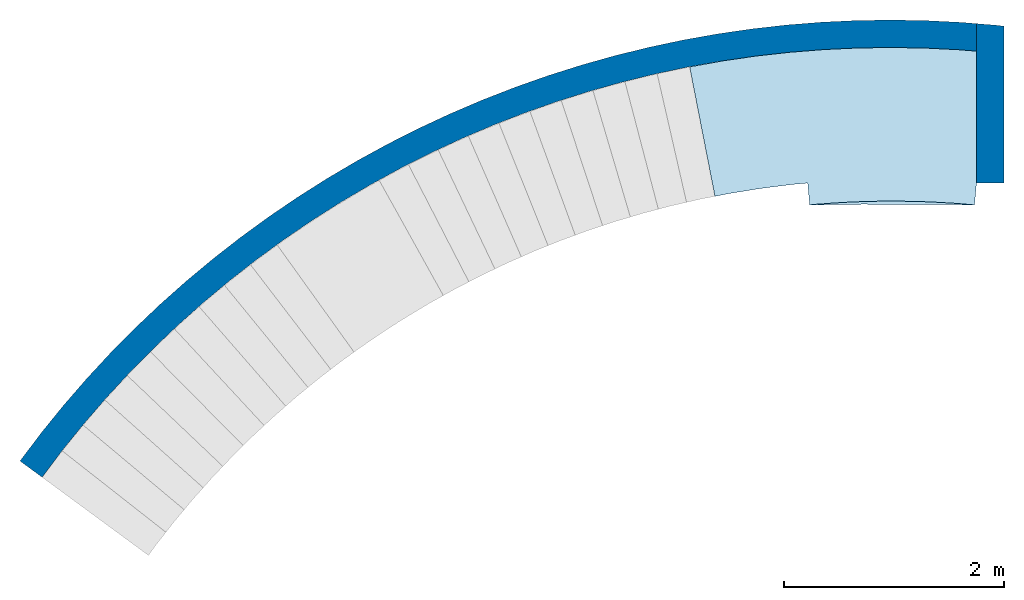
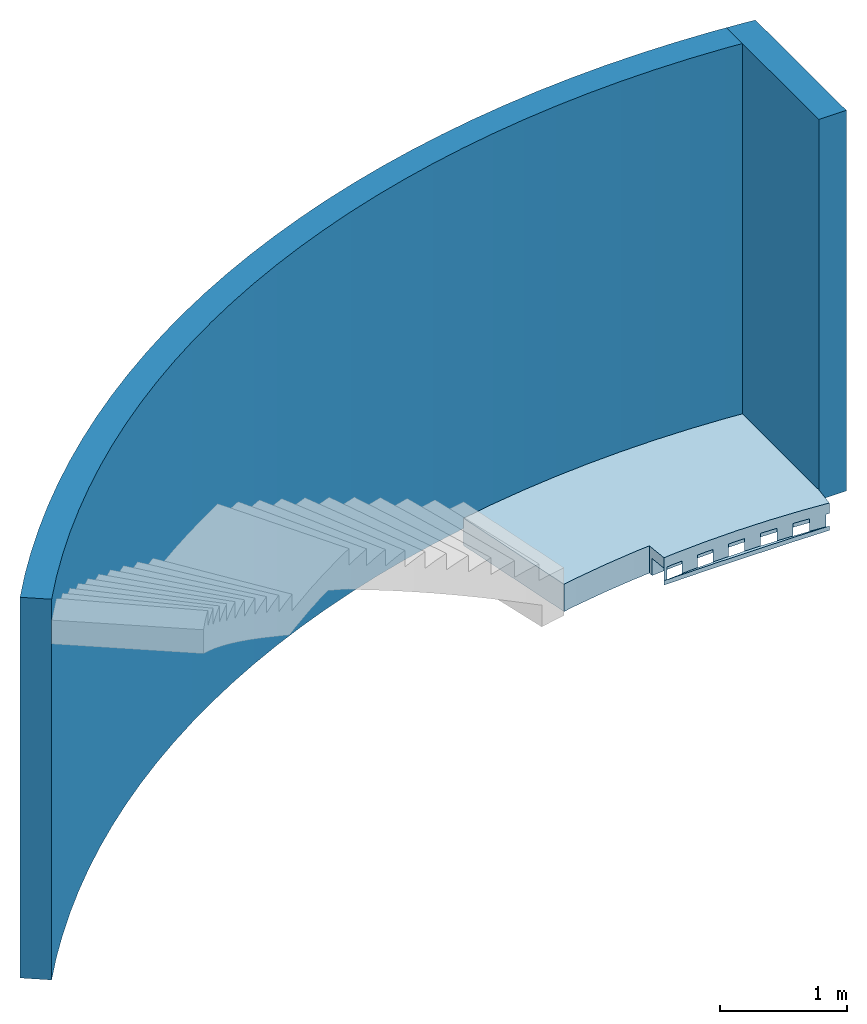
# One storey, incomplete: 2 walls, 1 slab.
"""IFC4 building model written with IfcOpenShell, lengths in millimetres."""

import ifcopenshell
import ifcopenshell.guid

model = None  # the IFC model being written
_history = None  # IfcOwnerHistory: only IFC2X3 demands one
_inside = {}  # id of a spatial element -> (the spatial element, [elements in it])
_under = {}  # id of a project, library or spatial element -> (it, [spatial elements below it])
_declared = {}  # id of a project -> (the project, [libraries it declares])
_typed = {}  # id of a type object -> (the type object, [elements of that type])
_made_of = {}  # id of a material, layer set ... -> (it, [elements and type objects made of it])


def new_model(schema):
    """Start an empty IFC model of exactly this schema.

    Asked for "IFC4X3", IfcOpenShell would pick the latest addendum, in which some entities
    have other attributes; the version numbers below select the first issue.
    IFC2X3 requires an IfcOwnerHistory on every rooted entity: one is made here for all.
    """
    global model, _history
    if schema == "IFC4X3":
        model = ifcopenshell.file(schema_version=(4, 3, 0, 0))
    else:
        model = ifcopenshell.file(schema=schema)
    _inside.clear()
    _under.clear()
    _declared.clear()
    _typed.clear()
    _made_of.clear()
    _history = None
    if model.schema == "IFC2X3":
        org = make("IfcOrganization", Name="unknown")
        user = make(
            "IfcPersonAndOrganization",
            ThePerson=make("IfcPerson", FamilyName="unknown"),
            TheOrganization=org,
        )
        app = make(
            "IfcApplication",
            ApplicationDeveloper=org,
            Version="unknown",
            ApplicationFullName="unknown",
            ApplicationIdentifier="unknown",
        )
        _history = make(
            "IfcOwnerHistory",
            OwningUser=user,
            OwningApplication=app,
            ChangeAction="ADDED",
            CreationDate=0,
        )
    return model


def make(cls, **values):
    """One entity of the class cls with the attributes given. An attribute that is None is left unset."""
    return model.create_entity(
        cls, **{name: value for name, value in values.items() if value is not None}
    )


def entity(cls, *values):
    """Any entity or typed value of the class cls, its attributes in the order of the schema. None: left unset."""
    e = model.create_entity(cls)
    for i, value in enumerate(values):
        if value is not None:
            e[i] = value
    return e


def rooted(cls, **values):
    """An entity with a GlobalId (a new one), such as an element, a storey or a relation."""
    return make(cls, GlobalId=ifcopenshell.guid.new(), OwnerHistory=_history, **values)


def si_unit(unit_type, name, prefix=None):
    """IfcSIUnit, for example si_unit("LENGTHUNIT", "METRE", prefix="MILLI")."""
    return make("IfcSIUnit", UnitType=unit_type, Prefix=prefix, Name=name)


def converted_unit(unit_type, name, factor, base, dimensions=None, offset=None):
    """IfcConversionBasedUnit, such as the inch: factor (a typed value) times the base unit."""
    return make(
        "IfcConversionBasedUnit"
        if offset is None
        else "IfcConversionBasedUnitWithOffset",
        ConversionOffset=offset,
        Dimensions=None
        if dimensions is None
        else entity("IfcDimensionalExponents", *dimensions),
        UnitType=unit_type,
        Name=name,
        ConversionFactor=make(
            "IfcMeasureWithUnit", ValueComponent=factor, UnitComponent=base
        ),
    )


def derived_unit(unit_type, elements):
    """IfcDerivedUnit: a product of units, each with its exponent."""
    return make(
        "IfcDerivedUnit",
        Elements=[
            make("IfcDerivedUnitElement", Unit=unit, Exponent=power)
            for unit, power in elements
        ],
        UnitType=unit_type,
    )


def assignment(units):
    """IfcUnitAssignment: the units of a project."""
    return None if units is None else make("IfcUnitAssignment", Units=units)


def point(xyz):
    """IfcCartesianPoint."""
    return None if xyz is None else make("IfcCartesianPoint", Coordinates=xyz)


def direction(xyz):
    """IfcDirection."""
    return None if xyz is None else make("IfcDirection", DirectionRatios=xyz)


def frame(location, z_axis=None, x_axis=None):
    """IfcAxis2Placement3D, a coordinate frame: its origin and axes. An axis left out is left unset."""
    return make(
        "IfcAxis2Placement3D",
        Location=point(location),
        Axis=direction(z_axis),
        RefDirection=direction(x_axis),
    )


def origin_with_axes():
    """The frame at (0, 0, 0) with the z axis (0, 0, 1) and the x axis (1, 0, 0) written out."""
    return frame((0.0, 0.0, 0.0), z_axis=(0.0, 0.0, 1.0), x_axis=(1.0, 0.0, 0.0))


def place(relative_to, where):
    """IfcLocalPlacement: puts the frame where relative to a parent placement (None: the world)."""
    return make(
        "IfcLocalPlacement", PlacementRelTo=relative_to, RelativePlacement=where
    )


def context(
    kind, dimensions, precision=None, world=None, true_north=None, identifier=None
):
    """IfcGeometricRepresentationContext, for example the 3D "Model" context."""
    return make(
        "IfcGeometricRepresentationContext",
        ContextIdentifier=identifier,
        ContextType=kind,
        CoordinateSpaceDimension=dimensions,
        Precision=precision,
        WorldCoordinateSystem=world,
        TrueNorth=true_north,
    )


def subcontext(parent, identifier, kind, view, scale=None):
    """IfcGeometricRepresentationSubContext, for example "Body" below "Model"."""
    return make(
        "IfcGeometricRepresentationSubContext",
        ContextIdentifier=identifier,
        ContextType=kind,
        ParentContext=parent,
        TargetScale=scale,
        TargetView=view,
    )


def project(units=None, contexts=None):
    """IfcProject with its units and contexts."""
    return rooted(
        "IfcProject",
        Name="project",
        RepresentationContexts=contexts,
        UnitsInContext=assignment(units),
    )


def spatial(cls, under=None, at=None, **own):
    """A site, building, storey or space (cls), placed at a placement, below another one or the project."""
    s = rooted(cls, ObjectPlacement=at, **own)
    if under is not None:
        _under.setdefault(under.id(), (under, []))[1].append(s)
    return s


def point_list(points):
    """IfcCartesianPointList2D or 3D."""
    cls = (
        "IfcCartesianPointList2D" if len(points[0]) == 2 else "IfcCartesianPointList3D"
    )
    return make(cls, CoordList=points)


def polygons(points, faces, closed=None, point_numbers=None):
    """IfcPolygonalFaceSet: a face is its outer loop, then its inner loops; points numbered from 1."""
    made = []
    for loops in faces:
        if len(loops) == 1:
            made.append(make("IfcIndexedPolygonalFace", CoordIndex=loops[0]))
        else:
            made.append(
                make(
                    "IfcIndexedPolygonalFaceWithVoids",
                    CoordIndex=loops[0],
                    InnerCoordIndices=loops[1:],
                )
            )
    return make(
        "IfcPolygonalFaceSet",
        Coordinates=point_list(points),
        Closed=closed,
        Faces=made,
        PnIndex=point_numbers,
    )


def shape(context_of_items, identifier, shape_type, items):
    """IfcShapeRepresentation: the items that make up one representation, for example the "Body"."""
    return make(
        "IfcShapeRepresentation",
        ContextOfItems=context_of_items,
        RepresentationIdentifier=identifier,
        RepresentationType=shape_type,
        Items=items,
    )


def material(Name=None, Category=None):
    """IfcMaterial."""
    return make("IfcMaterial", Name=Name, Category=Category)


def constituent(of_material, Name=None, Category=None, fraction=None):
    """IfcMaterialConstituent: one of the materials an element consists of."""
    return make(
        "IfcMaterialConstituent",
        Name=Name,
        Material=of_material,
        Fraction=fraction,
        Category=Category,
    )


def constituent_set(constituents=None, Name=None):
    """IfcMaterialConstituentSet."""
    return make(
        "IfcMaterialConstituentSet", Name=Name, MaterialConstituents=constituents
    )


def made_of(thing, what):
    """Note that an element or type object is made of a material, layer set ...; save() writes the relation."""
    if what is not None:
        _made_of.setdefault(what.id(), (what, []))[1].append(thing)
    return thing


def type_object(cls, material=None, **own):
    """A type object (cls), such as IfcWallType, which elements share."""
    return made_of(rooted(cls, **own), material)


def element(
    cls,
    number,
    at=None,
    inside=None,
    cuts=None,
    type_object=None,
    material=None,
    context=None,
    identifier="Body",
    shape_type=None,
    held_by="IfcProductDefinitionShape",
    body=None,
    shapes=None,
    **own,
):
    """One element of the class cls, such as IfcWall. Its Tag is "e" and its number.

    at: its placement. inside: the storey or other place that contains it. cuts: it is an
    opening in that element (IfcRelVoidsElement). A single representation is given by context,
    identifier, shape_type and body (its items); several are given by shapes. held_by: the class
    of the entity that holds the representations. save() writes the other relations.
    """
    e = rooted(cls, Tag="e%d" % number, ObjectPlacement=at, **own)
    if body is not None:
        shapes = [shape(context, identifier, shape_type, body)]
    if shapes is not None:
        e.Representation = make(held_by, Representations=shapes)
    if inside is not None:
        _inside.setdefault(inside.id(), (inside, []))[1].append(e)
    if cuts is not None:
        rooted(
            "IfcRelVoidsElement", RelatingBuildingElement=cuts, RelatedOpeningElement=e
        )
    if type_object is not None:
        _typed.setdefault(type_object.id(), (type_object, []))[1].append(e)
    return made_of(e, material)


def aggregate(whole, parts):
    """IfcRelAggregates: a whole, such as a stair, and the parts it consists of."""
    return rooted("IfcRelAggregates", RelatingObject=whole, RelatedObjects=parts)


def save(model, path):
    """Write the relations noted so far, then the file.

    IfcRelAggregates (storeys below a building ...), IfcRelContainedInSpatialStructure (elements
    in a storey), IfcRelDefinesByType, IfcRelAssociatesMaterial and IfcRelDeclares: one each for
    every whole, place, type object, material and project.
    """
    for whole, parts in _under.values():
        aggregate(whole, parts)
    for where, things in _inside.values():
        rooted(
            "IfcRelContainedInSpatialStructure",
            RelatedElements=things,
            RelatingStructure=where,
        )
    for kind, things in _typed.values():
        rooted("IfcRelDefinesByType", RelatedObjects=things, RelatingType=kind)
    for what, things in _made_of.values():
        rooted("IfcRelAssociatesMaterial", RelatedObjects=things, RelatingMaterial=what)
    for by, libraries in _declared.values():
        rooted("IfcRelDeclares", RelatingContext=by, RelatedDefinitions=libraries)
    model.write(path)


model = new_model("IFC4")

# Units and contexts
model_context = context("Model", 3, precision=0.01, world=origin_with_axes(), true_north=direction((0.0, 1.0)))
body_context = subcontext(model_context, "Body", "Model", "MODEL_VIEW")
ifc_project = project(units=[si_unit("LENGTHUNIT", "METRE", prefix="MILLI"), si_unit("AREAUNIT", "SQUARE_METRE"), si_unit("VOLUMEUNIT", "CUBIC_METRE"), converted_unit("PLANEANGLEUNIT", "DEGREE", entity("IfcPlaneAngleMeasure", 0.0174532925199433), si_unit("PLANEANGLEUNIT", "RADIAN"), dimensions=[0, 0, 0, 0, 0, 0, 0]), converted_unit("TIMEUNIT", "Year", entity("IfcTimeMeasure", 31557600.0), si_unit("TIMEUNIT", "SECOND"), dimensions=[0, 0, 1, 0, 0, 0, 0]), si_unit("MASSUNIT", "GRAM", prefix="KILO"), si_unit("THERMODYNAMICTEMPERATUREUNIT", "DEGREE_CELSIUS"), si_unit("LUMINOUSINTENSITYUNIT", "LUMEN"), si_unit("ENERGYUNIT", "JOULE", prefix="MEGA"), derived_unit("THERMALCONDUCTANCEUNIT", [(si_unit("POWERUNIT", "WATT"), 1), (si_unit("LENGTHUNIT", "METRE"), -1), (si_unit("THERMODYNAMICTEMPERATUREUNIT", "KELVIN"), -1)]), derived_unit("SPECIFICHEATCAPACITYUNIT", [(si_unit("ENERGYUNIT", "JOULE"), 1), (si_unit("MASSUNIT", "GRAM", prefix="KILO"), -1), (si_unit("THERMODYNAMICTEMPERATUREUNIT", "KELVIN"), -1)]), derived_unit("MASSDENSITYUNIT", [(si_unit("MASSUNIT", "GRAM", prefix="KILO"), 1), (si_unit("VOLUMEUNIT", "CUBIC_METRE"), -1)])], contexts=[model_context])

# Site, building, storey
site_placement = place(None, origin_with_axes())
site = spatial("IfcSite", under=ifc_project, at=site_placement, Name="Exteriér", CompositionType="ELEMENT")
building_placement = place(site_placement, origin_with_axes())
building = spatial("IfcBuilding", under=site, at=building_placement, Name="Univerzitní lezecké centrum", CompositionType="ELEMENT")
storey_placement = place(building_placement, frame((0.0, 0.0, -3350.0), z_axis=(0.0, 0.0, 1.0), x_axis=(1.0, 0.0, 0.0)))
storey = spatial("IfcBuildingStorey", under=building, at=storey_placement, Name="1.PP", CompositionType="ELEMENT", Elevation=-3350.0)

# Slab
ifc_material_1 = material(Name="Betonová dlažba zámková")
ifc_constituent_1 = constituent(ifc_material_1, Name="Betonová dlažba zámková")
ifc_material_2 = material(Name="Štěrk - frakce 4/8")
ifc_constituent_2 = constituent(ifc_material_2, Name="Štěrk - frakce 4/8")
ifc_material_3 = material(Name="Štěrk - frakce 8/16")
ifc_constituent_3 = constituent(ifc_material_3, Name="Štěrk - frakce 8/16")
ifc_material_4 = material(Name="Geotextilie 300 g/m2")
ifc_constituent_4 = constituent(ifc_material_4, Name="Geotextilie 300 g/m2")
ifc_constituent_set = constituent_set(constituents=[ifc_constituent_1, ifc_constituent_2, ifc_constituent_3, ifc_constituent_4], Name="!Okapový chodník/Terasa/chodník")
slab_type = type_object("IfcSlabType", Name="!Okapový chodník/Terasa/chodník 312", PredefinedType="FLOOR")
slab_placement = place(storey_placement, frame((837.9499341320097, 16643.89306469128, 0.0), z_axis=(0.0, 0.0, 1.0), x_axis=(1.0, 0.0, 0.0)))
element("IfcSlab", 1, at=slab_placement, inside=storey, type_object=slab_type, material=ifc_constituent_set, PredefinedType="FLOOR", context=body_context, shape_type="Tessellation", body=[
    polygons([(2380.194397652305, 1320.897808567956, -59.99999999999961), (2380.194397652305, 1320.897808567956, 0.0), (2380.194397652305, 120.8978085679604, 0.0), (2380.194397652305, 120.8978085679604, -59.99999999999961), (2225.792900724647, 1333.648762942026, 0.0), (2225.792900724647, 1333.648762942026, -59.99999999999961), (370.3998768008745, 1276.186860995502, 0.0), (63.92436828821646, 1231.647672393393, 0.0), (-230.2716735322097, 1177.699009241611, 0.0), (0.0, 0.0, 0.0), (125.1991216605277, 24.76726126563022, 0.0), (411.4872163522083, 71.15553518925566, 0.0), (699.2058676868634, 107.6346085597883, 0.0), (843.6090317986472, 120.8978085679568, 0.0), (861.888085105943, -78.1154863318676, 0.0), (957.5525817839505, -68.74692884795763, 0.0), (1248.107027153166, -50.67388322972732, 0.0), (1539.119850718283, -42.92422372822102, 0.0), (1830.224378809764, -45.50771484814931, 0.0), (2121.053822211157, -58.42110141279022, 0.0), (2361.953230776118, -77.70299760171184, 0.0), (1916.326052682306, 1349.137672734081, 0.0), (1606.519938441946, 1354.59733784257, 0.0), (1296.69950183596, 1350.022031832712, 0.0), (987.1897017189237, 1335.416553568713, 0.0), (678.3151711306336, 1310.796222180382, 0.0), (2361.953230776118, -77.70299760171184, -59.99999999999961), (2121.053822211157, -58.42110141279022, -59.99999999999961), (1830.224378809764, -45.50771484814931, -59.99999999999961), (1539.119850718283, -42.92422372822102, -59.99999999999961), (1248.107027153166, -50.67388322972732, -59.99999999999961), (957.5525817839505, -68.74692884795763, -59.99999999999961), (861.888085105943, -78.1154863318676, -59.99999999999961), (843.6090317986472, 120.8978085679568, -59.99999999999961), (699.2058676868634, 107.6346085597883, -59.99999999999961), (411.4872163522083, 71.15553518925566, -59.99999999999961), (125.1991216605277, 24.76726126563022, -59.99999999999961), (0.0, 0.0, -59.99999999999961), (-230.2716735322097, 1177.699009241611, -59.99999999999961), (63.92436828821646, 1231.647672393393, -59.99999999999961), (370.3998768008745, 1276.186860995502, -59.99999999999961), (678.3151711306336, 1310.796222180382, -59.99999999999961), (987.1897017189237, 1335.416553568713, -59.99999999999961), (1296.69950183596, 1350.022031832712, -59.99999999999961), (1606.519938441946, 1354.59733784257, -59.99999999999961), (1916.326052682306, 1349.137672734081, -59.99999999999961)], [[[1, 2, 3, 4]], [[5, 2, 1, 6]], [[7, 8, 9, 10, 11, 12, 13, 14, 15, 16, 17, 18, 19, 20, 21, 3, 2, 5, 22, 23, 24, 25, 26]], [[3, 21, 27, 4]], [[6, 1, 4, 27, 28, 29, 30, 31, 32, 33, 34, 35, 36, 37, 38, 39, 40, 41, 42, 43, 44, 45, 46]], [[22, 5, 6, 46]], [[8, 7, 41, 40]], [[8, 40, 39, 9]], [[38, 10, 9, 39]], [[37, 11, 10, 38]], [[36, 12, 11, 37]], [[35, 13, 12, 36]], [[34, 14, 13, 35]], [[34, 33, 15, 14]], [[32, 16, 15, 33]], [[31, 17, 16, 32]], [[30, 18, 17, 31]], [[29, 19, 18, 30]], [[28, 20, 19, 29]], [[28, 27, 21, 20]], [[23, 22, 46, 45]], [[24, 23, 45, 44]], [[25, 24, 44, 43]], [[26, 25, 43, 42]], [[7, 26, 42, 41]]], closed=True),
    polygons([(2380.194397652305, 1320.897808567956, -100.0000000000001), (2380.194397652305, 1320.897808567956, -59.99999999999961), (2380.194397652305, 120.8978085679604, -59.99999999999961), (2380.194397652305, 120.8978085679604, -99.99999999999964), (2225.792900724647, 1333.648762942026, -59.99999999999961), (2225.792900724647, 1333.648762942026, -100.0000000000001), (370.3998768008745, 1276.186860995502, -59.99999999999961), (63.92436828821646, 1231.647672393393, -59.99999999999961), (-230.2716735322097, 1177.699009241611, -59.99999999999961), (0.0, 0.0, -59.99999999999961), (125.1991216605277, 24.76726126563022, -59.99999999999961), (411.4872163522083, 71.15553518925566, -59.99999999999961), (699.2058676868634, 107.6346085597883, -59.99999999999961), (843.6090317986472, 120.8978085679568, -59.99999999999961), (861.888085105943, -78.1154863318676, -59.99999999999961), (957.5525817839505, -68.74692884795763, -59.99999999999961), (1248.107027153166, -50.67388322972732, -59.99999999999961), (1539.119850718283, -42.92422372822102, -59.99999999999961), (1830.224378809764, -45.50771484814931, -59.99999999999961), (2121.053822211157, -58.42110141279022, -59.99999999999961), (2361.953230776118, -77.70299760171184, -59.99999999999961), (1916.326052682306, 1349.137672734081, -59.99999999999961), (1606.519938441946, 1354.59733784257, -59.99999999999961), (1296.69950183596, 1350.022031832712, -59.99999999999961), (987.1897017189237, 1335.416553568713, -59.99999999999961), (678.3151711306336, 1310.796222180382, -59.99999999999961), (2361.953230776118, -77.70299760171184, -99.99999999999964), (2121.053822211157, -58.42110141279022, -99.99999999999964), (1830.224378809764, -45.50771484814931, -99.99999999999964), (1539.119850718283, -42.92422372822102, -99.99999999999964), (1248.107027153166, -50.67388322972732, -99.99999999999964), (957.5525817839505, -68.74692884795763, -99.99999999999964), (861.888085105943, -78.1154863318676, -99.99999999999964), (843.6090317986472, 120.8978085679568, -99.99999999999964), (699.2058676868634, 107.6346085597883, -99.99999999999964), (411.4872163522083, 71.15553518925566, -99.99999999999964), (125.1991216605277, 24.76726126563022, -99.99999999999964), (0.0, 0.0, -99.99999999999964), (-230.2716735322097, 1177.699009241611, -99.99999999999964), (63.92436828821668, 1231.647672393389, -100.0000000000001), (370.3998768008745, 1276.186860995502, -100.0000000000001), (678.3151711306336, 1310.796222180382, -100.0000000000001), (987.1897017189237, 1335.416553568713, -100.0000000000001), (1296.69950183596, 1350.022031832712, -100.0000000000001), (1606.519938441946, 1354.59733784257, -100.0000000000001), (1916.326052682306, 1349.137672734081, -100.0000000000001)], [[[1, 2, 3, 4]], [[5, 2, 1, 6]], [[7, 8, 9, 10, 11, 12, 13, 14, 15, 16, 17, 18, 19, 20, 21, 3, 2, 5, 22, 23, 24, 25, 26]], [[3, 21, 27, 4]], [[6, 1, 4, 27, 28, 29, 30, 31, 32, 33, 34, 35, 36, 37, 38, 39, 40, 41, 42, 43, 44, 45, 46]], [[22, 5, 6, 46]], [[8, 7, 41, 40]], [[8, 40, 39, 9]], [[38, 10, 9, 39]], [[37, 11, 10, 38]], [[36, 12, 11, 37]], [[35, 13, 12, 36]], [[34, 14, 13, 35]], [[34, 33, 15, 14]], [[32, 16, 15, 33]], [[31, 17, 16, 32]], [[30, 18, 17, 31]], [[29, 19, 18, 30]], [[28, 20, 19, 29]], [[28, 27, 21, 20]], [[23, 22, 46, 45]], [[24, 23, 45, 44]], [[25, 24, 44, 43]], [[26, 25, 43, 42]], [[7, 26, 42, 41]]], closed=True),
    polygons([(2334.230989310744, -75.4840740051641, -99.99999999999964), (2334.230989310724, -75.48407400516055, -219.9999999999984), (2361.910858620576, -78.16432468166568, -219.9999999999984), (2361.910858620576, -78.16432468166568, -259.9999999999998), (2258.952713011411, -68.19485422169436, -259.9999999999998), (2258.952713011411, -68.19485422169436, -99.99999999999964), (2190.769548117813, -64.00123711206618, -99.99999999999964), (2190.769548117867, -64.00123711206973, -219.9999999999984), (2361.901714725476, -78.2638788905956, -219.9999999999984), (2120.973747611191, -59.7084345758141, -219.9999999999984), (2120.06033399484, -74.39308664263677, -219.9999999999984), (2361.901714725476, -78.2638788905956, -259.9999999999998), (2019.543180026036, -72.78425932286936, -259.9999999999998), (1334.73907572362, -71.83096021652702, -259.9999999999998), (861.9017147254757, -78.26387889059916, -259.9999999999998), (861.8420544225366, -77.61432700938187, -259.9999999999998), (1108.433022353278, -58.09832631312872, -259.9999999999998), (1396.018598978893, -45.47183232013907, -259.9999999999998), (1683.870142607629, -42.94575548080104, -259.9999999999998), (1971.633021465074, -50.52320791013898, -259.9999999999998), (1971.633021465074, -50.52320791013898, -99.99999999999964), (2045.497513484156, -55.06625600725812, -99.99999999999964), (2045.497513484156, -55.06625600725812, -219.9999999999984), (1901.718937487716, -48.68221074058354, -219.9999999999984), (1830.190000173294, -46.79869080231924, -219.9999999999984), (1829.505050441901, -72.51971187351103, -219.9999999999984), (2019.543180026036, -72.78425932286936, -219.9999999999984), (1539.378920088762, -72.11583435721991, -219.9999999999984), (1334.73907572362, -71.83096021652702, -219.9999999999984), (958.2094557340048, -76.95361892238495, -219.9999999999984), (861.9017147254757, -78.26387889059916, -219.9999999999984), (1249.098176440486, -72.99609856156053, -219.9999999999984), (861.8880851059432, -78.11548633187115, -219.9999999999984), (861.888085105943, -78.1154863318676, -99.99999999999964), (861.8420544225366, -77.61432700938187, -99.99999999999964), (1033.849024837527, -64.001143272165, -219.9999999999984), (1033.849024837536, -64.001143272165, -99.99999999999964), (1108.433022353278, -58.09832631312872, -99.99999999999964), (888.7561603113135, -75.48425828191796, -99.99999999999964), (888.756160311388, -75.48425828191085, -219.9999999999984), (957.6553886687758, -70.0313522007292, -219.9999999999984), (1322.898117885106, -48.68219956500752, -219.9999999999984), (1322.898117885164, -48.68219956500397, -99.99999999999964), (1396.018598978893, -45.47183232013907, -99.99999999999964), (1177.491657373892, -55.06629511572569, -99.99999999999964), (1177.491657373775, -55.0662951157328, -219.9999999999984), (1248.164284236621, -51.96340133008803, -219.9999999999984), (1612.308274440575, -43.57375550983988, -219.9999999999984), (1612.308274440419, -43.57375550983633, -99.99999999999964), (1683.870142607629, -42.94575548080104, -99.99999999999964), (1466.767346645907, -44.85096793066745, -99.99999999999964), (1466.767346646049, -44.8509679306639, -219.9999999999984), (1539.131314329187, -44.21592897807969, -219.9999999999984), (1901.718937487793, -48.6822107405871, -99.99999999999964), (1756.222836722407, -44.85096681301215, -99.99999999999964), (1756.222836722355, -44.85096681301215, -219.9999999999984)], [[[1, 2, 3, 4, 5, 6]], [[2, 1, 7, 8]], [[9, 3, 2, 8, 10, 11]], [[3, 9, 12, 4]], [[5, 4, 12, 13, 14, 15, 16, 17, 18, 19, 20]], [[8, 7, 6, 5, 20, 21, 22, 23, 10]], [[7, 1, 6]], [[10, 23, 24, 25, 26, 27, 11]], [[11, 27, 13, 12, 9]], [[28, 29, 14, 13, 27, 26]], [[30, 31, 15, 14, 29, 32]], [[33, 34, 35, 16, 15, 31]], [[36, 37, 38, 17, 16, 35, 39, 40, 41]], [[42, 43, 44, 18, 17, 38, 45, 46, 47]], [[48, 49, 50, 19, 18, 44, 51, 52, 53]], [[24, 54, 21, 20, 19, 50, 55, 56, 25]], [[54, 22, 21]], [[23, 22, 54, 24]], [[25, 56, 48, 53, 28, 26]], [[29, 28, 53, 52, 42, 47, 32]], [[31, 30, 41, 40, 33]], [[30, 32, 47, 46, 36, 41]], [[40, 39, 34, 33]], [[34, 39, 35]], [[46, 45, 37, 36]], [[37, 45, 38]], [[52, 51, 43, 42]], [[43, 51, 44]], [[56, 55, 49, 48]], [[49, 55, 50]]], closed=True),
    polygons([(1978.652168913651, 109.3474234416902, -99.99999999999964), (2271.57809834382, 91.33096451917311, -99.99999999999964), (2376.545183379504, 81.16696780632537, -99.99999999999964), (2380.194397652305, 120.8978085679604, -99.99999999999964), (2380.194397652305, 1320.89780856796, -99.99999999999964), (2227.608256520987, 1333.950600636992, -99.99999999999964), (1921.745216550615, 1350.057250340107, -99.99999999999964), (1615.518944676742, 1356.147718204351, -99.99999999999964), (1309.257355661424, 1352.215482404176, -99.99999999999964), (1003.288402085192, 1338.264753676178, -99.99999999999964), (697.9397231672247, 1314.310470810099, -99.99999999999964), (393.5382939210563, 1280.378284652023, -99.99999999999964), (90.41007502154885, 1236.5045306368, -99.99999999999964), (-230.2716735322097, 1177.699009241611, -99.99999999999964), (0.0, 0.0, -99.99999999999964), (125.1991216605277, 24.76726126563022, -99.99999999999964), (411.4872163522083, 71.15553518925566, -99.99999999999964), (699.2058676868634, 107.6346085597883, -99.99999999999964), (843.6090317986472, 120.8978085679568, -99.99999999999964), (847.2067439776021, 81.72769714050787, -99.99999999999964), (1098.609242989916, 101.6244978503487, -99.99999999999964), (1391.806245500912, 114.4973624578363, -99.99999999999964), (1685.274404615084, 117.0727286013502, -99.99999999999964), (1978.652168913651, 109.3474234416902, -259.9999999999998), (2271.57809834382, 91.33096451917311, -259.9999999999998), (2376.545183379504, 81.16696780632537, -259.9999999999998), (2380.194397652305, 120.8978085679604, -259.9999999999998), (2380.194397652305, 1320.89780856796, -259.9999999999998), (2227.608256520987, 1333.950600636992, -259.9999999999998), (1921.745216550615, 1350.057250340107, -259.9999999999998), (1615.518944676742, 1356.147718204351, -259.9999999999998), (1309.257355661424, 1352.215482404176, -259.9999999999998), (1003.288402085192, 1338.264753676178, -259.9999999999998), (697.9397231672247, 1314.310470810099, -259.9999999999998), (393.5382939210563, 1280.378284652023, -259.9999999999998), (90.41007502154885, 1236.5045306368, -259.9999999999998), (-230.2716735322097, 1177.699009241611, -259.9999999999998), (0.0, 0.0, -259.9999999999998), (125.1991216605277, 24.76726126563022, -259.9999999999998), (411.4872163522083, 71.15553518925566, -259.9999999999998), (699.2058676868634, 107.6346085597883, -259.9999999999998), (843.6090317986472, 120.8978085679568, -259.9999999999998), (847.2067439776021, 81.72769714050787, -259.9999999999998), (1098.609242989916, 101.6244978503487, -259.9999999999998), (1391.806245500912, 114.4973624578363, -259.9999999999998), (1685.274404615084, 117.0727286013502, -259.9999999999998)], [[[1, 2, 3, 4, 5, 6, 7, 8, 9, 10, 11, 12, 13, 14, 15, 16, 17, 18, 19, 20, 21, 22, 23]], [[2, 1, 24, 25]], [[26, 3, 2, 25]], [[3, 26, 27, 4]], [[27, 28, 5, 4]], [[28, 29, 6, 5]], [[29, 30, 7, 6]], [[30, 31, 8, 7]], [[31, 32, 9, 8]], [[32, 33, 10, 9]], [[33, 34, 11, 10]], [[34, 35, 12, 11]], [[35, 36, 13, 12]], [[36, 37, 14, 13]], [[37, 38, 15, 14]], [[38, 39, 16, 15]], [[39, 40, 17, 16]], [[40, 41, 18, 17]], [[41, 42, 19, 18]], [[43, 20, 19, 42]], [[21, 20, 43, 44]], [[22, 21, 44, 45]], [[23, 22, 45, 46]], [[1, 23, 46, 24]], [[44, 43, 42, 41, 40, 39, 38, 37, 36, 35, 34, 33, 32, 31, 30, 29, 28, 27, 26, 25, 24, 46, 45]]], closed=True),
    polygons([(2361.910858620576, -78.16432468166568, -261.9999999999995), (2361.910858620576, -78.16432468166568, -259.9999999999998), (2361.901714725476, -78.2638788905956, -259.9999999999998), (2361.901714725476, -78.2638788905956, -261.9999999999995), (2258.952713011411, -68.19485422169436, -259.9999999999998), (2258.952713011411, -68.19485422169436, -261.9999999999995), (1108.433022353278, -58.09832631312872, -259.9999999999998), (861.8420544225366, -77.61432700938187, -259.9999999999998), (861.9017147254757, -78.26387889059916, -259.9999999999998), (1334.73907572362, -71.83096021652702, -259.9999999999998), (2019.543180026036, -72.78425932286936, -259.9999999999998), (1971.633021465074, -50.52320791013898, -259.9999999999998), (1683.870142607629, -42.94575548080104, -259.9999999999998), (1396.018598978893, -45.47183232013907, -259.9999999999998), (2019.543180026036, -72.78425932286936, -261.9999999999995), (1334.73907572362, -71.83096021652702, -261.9999999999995), (861.9017147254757, -78.26387889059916, -261.9999999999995), (861.8420544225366, -77.61432700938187, -261.9999999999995), (1108.433022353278, -58.09832631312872, -261.9999999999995), (1396.018598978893, -45.47183232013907, -261.9999999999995), (1683.870142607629, -42.94575548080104, -261.9999999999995), (1971.633021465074, -50.52320791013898, -261.9999999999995)], [[[1, 2, 3, 4]], [[5, 2, 1, 6]], [[7, 8, 9, 10, 11, 3, 2, 5, 12, 13, 14]], [[15, 4, 3, 11]], [[6, 1, 4, 15, 16, 17, 18, 19, 20, 21, 22]], [[12, 5, 6, 22]], [[8, 7, 19, 18]], [[8, 18, 17, 9]], [[17, 16, 10, 9]], [[16, 15, 11, 10]], [[13, 12, 22, 21]], [[14, 13, 21, 20]], [[7, 14, 20, 19]]], closed=True),
    polygons([(1978.652168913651, 109.3474234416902, -259.9999999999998), (2271.57809834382, 91.33096451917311, -259.9999999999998), (2376.545183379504, 81.16696780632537, -259.9999999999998), (2380.194397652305, 120.8978085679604, -259.9999999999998), (2380.194397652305, 1320.89780856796, -259.9999999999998), (2227.608256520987, 1333.950600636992, -259.9999999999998), (1921.745216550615, 1350.057250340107, -259.9999999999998), (1615.518944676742, 1356.147718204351, -259.9999999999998), (1309.257355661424, 1352.215482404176, -259.9999999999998), (1003.288402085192, 1338.264753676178, -259.9999999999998), (697.9397231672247, 1314.310470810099, -259.9999999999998), (393.5382939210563, 1280.378284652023, -259.9999999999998), (90.41007502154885, 1236.5045306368, -259.9999999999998), (-230.2716735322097, 1177.699009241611, -259.9999999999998), (0.0, 0.0, -259.9999999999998), (125.1991216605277, 24.76726126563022, -259.9999999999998), (411.4872163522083, 71.15553518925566, -259.9999999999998), (699.2058676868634, 107.6346085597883, -259.9999999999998), (843.6090317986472, 120.8978085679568, -259.9999999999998), (847.2067439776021, 81.72769714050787, -259.9999999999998), (1098.609242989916, 101.6244978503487, -259.9999999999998), (1391.806245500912, 114.4973624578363, -259.9999999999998), (1685.274404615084, 117.0727286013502, -259.9999999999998), (1978.652168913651, 109.3474234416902, -261.9999999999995), (2271.57809834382, 91.33096451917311, -261.9999999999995), (2376.545183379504, 81.16696780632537, -261.9999999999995), (2380.194397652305, 120.8978085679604, -261.9999999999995), (2380.194397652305, 1320.89780856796, -261.9999999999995), (2227.608256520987, 1333.950600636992, -261.9999999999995), (1921.745216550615, 1350.057250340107, -261.9999999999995), (1615.518944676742, 1356.147718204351, -261.9999999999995), (1309.257355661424, 1352.215482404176, -261.9999999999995), (1003.288402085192, 1338.264753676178, -261.9999999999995), (697.9397231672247, 1314.310470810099, -261.9999999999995), (393.5382939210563, 1280.378284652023, -261.9999999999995), (90.41007502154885, 1236.5045306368, -261.9999999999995), (-230.2716735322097, 1177.699009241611, -261.9999999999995), (0.0, 0.0, -261.9999999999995), (125.1991216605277, 24.76726126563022, -261.9999999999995), (411.4872163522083, 71.15553518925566, -261.9999999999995), (699.2058676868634, 107.6346085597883, -261.9999999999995), (843.6090317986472, 120.8978085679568, -261.9999999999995), (847.2067439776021, 81.72769714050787, -261.9999999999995), (1098.609242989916, 101.6244978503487, -261.9999999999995), (1391.806245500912, 114.4973624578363, -261.9999999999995), (1685.274404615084, 117.0727286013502, -261.9999999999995)], [[[1, 2, 3, 4, 5, 6, 7, 8, 9, 10, 11, 12, 13, 14, 15, 16, 17, 18, 19, 20, 21, 22, 23]], [[2, 1, 24, 25]], [[26, 3, 2, 25]], [[3, 26, 27, 4]], [[27, 28, 5, 4]], [[28, 29, 6, 5]], [[29, 30, 7, 6]], [[30, 31, 8, 7]], [[31, 32, 9, 8]], [[32, 33, 10, 9]], [[33, 34, 11, 10]], [[34, 35, 12, 11]], [[35, 36, 13, 12]], [[36, 37, 14, 13]], [[37, 38, 15, 14]], [[38, 39, 16, 15]], [[39, 40, 17, 16]], [[40, 41, 18, 17]], [[41, 42, 19, 18]], [[43, 20, 19, 42]], [[21, 20, 43, 44]], [[22, 21, 44, 45]], [[23, 22, 45, 46]], [[1, 23, 46, 24]], [[44, 43, 42, 41, 40, 39, 38, 37, 36, 35, 34, 33, 32, 31, 30, 29, 28, 27, 26, 25, 24, 46, 45]]], closed=True),
])

# Walls
ifc_material_5 = material(Name="Betonové tvárnice - nosné")
wall_type = type_object("IfcWallType", Name="Betonové tvárnice - nosné 250", PredefinedType="NOTDEFINED")
wall_1_placement = place(storey_placement, frame((3218.14433178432, 17964.79087325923, -100.000000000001), z_axis=(0.0, 0.0, 1.0), x_axis=(0.0, -1.0, 0.0)))
element("IfcWall", 2, at=wall_1_placement, inside=storey, type_object=wall_type, material=ifc_material_5, PredefinedType="NOTDEFINED", context=body_context, shape_type="Tessellation", body=[
    polygons([(1199.999999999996, 250.0, 0.0), (-227.8834522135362, 250.0, 0.0), (-227.8834522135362, 250.0, 3650.0), (1199.999999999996, 250.0, 3650.0), (-249.1518397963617, 20.5757314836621, 0.0), (-236.0676574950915, 179.0122903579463, 0.0), (1199.999999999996, 0.0, 0.0), (-250.8510475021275, 0.0, 0.0), (-236.0676574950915, 179.0122903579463, 3650.0), (-249.1518397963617, 20.5757314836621, 3650.0), (-250.8510475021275, 0.0, 3650.0), (1199.999999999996, 0.0, 3650.0)], [[[1, 2, 3, 4]], [[5, 6, 2, 1, 7, 8]], [[6, 9, 3, 2]], [[9, 10, 11, 12, 4, 3]], [[12, 7, 1, 4]], [[5, 10, 9, 6]], [[12, 11, 8, 7]], [[8, 11, 10, 5]]], closed=True),
])
wall_2_placement = place(storey_placement, frame((3218.14433178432, 17964.79087325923, -100.000000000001), z_axis=(0.0, 0.0, 1.0), x_axis=(-0.9966073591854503, 0.08230292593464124, 0.0)))
element("IfcWall", 3, at=wall_2_placement, inside=storey, type_object=wall_type, material=ifc_material_5, PredefinedType="NOTDEFINED", context=body_context, shape_type="Tessellation", body=[
    polygons([(154.9271089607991, 0.0, 3650.0), (0.0, 0.0, 3650.0), (20.64577518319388, -250.0, 3650.0), (158.975907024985, -250.0, 3650.0), (154.9271089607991, 0.0, 0.0), (0.0, 0.0, 0.0), (20.64577518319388, -250.0, 0.0), (158.975907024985, -250.0, 0.0), (464.6188297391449, 10.03366558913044, 3650.0), (476.760977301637, -239.7041189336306, 3650.0), (464.6188297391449, 10.03366558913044, 0.0), (476.760977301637, -239.7041189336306, 0.0), (773.8232295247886, 30.09047283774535, 3650.0), (794.0459911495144, -219.1231557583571, 3650.0), (773.8232295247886, 30.09047283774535, 0.0), (794.0459911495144, -219.1231557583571, 0.0), (1082.215995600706, 60.14938492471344, 3650.0), (1110.498160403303, -188.2786970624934, 3650.0), (1082.215995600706, 60.14938492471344, 0.0), (1110.498160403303, -188.2786970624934, 0.0), (1389.47366654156, 100.1788742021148, 3650.0), (1425.785570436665, -147.2030944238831, 3650.0), (1389.47366654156, 100.1788742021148, 0.0), (1425.785570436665, -147.2030944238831, 0.0), (1695.273971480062, 150.1369552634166, 3650.0), (1739.577528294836, -95.93943047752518, 3650.0), (1695.273971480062, 150.1369552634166, 0.0), (1739.577528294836, -95.93943047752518, 0.0), (1999.296168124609, 209.9712289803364, 3650.0), (2051.544909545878, -34.54147372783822, 3650.0), (1999.296168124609, 209.9712289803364, 0.0), (2051.544909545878, -34.54147372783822, 0.0), (2301.221379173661, 279.6189374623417, 3650.0), (2361.360503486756, 36.9263778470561, 3650.0), (2301.221379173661, 279.6189374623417, 0.0), (2361.360503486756, 36.9263778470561, 0.0), (2600.732926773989, 359.0070298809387, 3650.0), (2668.69935634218, 118.38916433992, 3650.0), (2600.732926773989, 359.0070298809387, 0.0), (2668.69935634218, 118.38916433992, 0.0), (2897.516664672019, 448.0522390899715, 3650.0), (2973.239112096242, 209.7614425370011, 3650.0), (2897.516664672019, 448.0522390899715, 0.0), (2973.239112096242, 209.7614425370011, 0.0), (3191.261307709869, 546.6611689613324, 3650.0), (3274.660350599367, 310.9473755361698, 3650.0), (3191.261307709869, 546.6611689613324, 0.0), (3274.660350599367, 310.9473755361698, 0.0), (3481.658758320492, 654.7303923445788, 3650.0), (3572.646922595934, 421.8408332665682, 3650.0), (3481.658758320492, 654.7303923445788, 0.0), (3572.646922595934, 421.8408332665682, 0.0), (3768.40442967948, 772.1465595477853, 3650.0), (3866.88628132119, 542.3255038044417, 3650.0), (3768.40442967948, 772.1465595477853, 0.0), (3866.88628132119, 542.3255038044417, 0.0), (4051.197565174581, 898.7865172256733, 3650.0), (4157.069810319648, 672.2750153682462, 3650.0), (4051.197565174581, 898.7865172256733, 0.0), (4157.069810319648, 672.2750153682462, 0.0), (4329.74155385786, 1034.517437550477, 3650.0), (4442.893147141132, 811.5530688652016, 3650.0), (4329.74155385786, 1034.517437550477, 0.0), (4442.893147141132, 811.5530688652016, 0.0), (4603.74424154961, 1179.196957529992, 3650.0), (4724.056502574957, 960.013580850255, 3650.0), (4603.74424154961, 1179.196957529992, 0.0), (4724.056502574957, 960.013580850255, 0.0), (4872.91823726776, 1332.67332832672, 3650.0), (5000.264975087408, 1117.500836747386, 3650.0), (4872.91823726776, 1332.67332832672, 0.0), (5000.264975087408, 1117.500836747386, 0.0), (5136.981214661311, 1494.785574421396, 3650.0), (5271.228860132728, 1283.849654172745, 3650.0), (5136.981214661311, 1494.785574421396, 0.0), (5271.228860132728, 1283.849654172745, 0.0), (5395.656208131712, 1665.363662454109, 3650.0), (5536.663954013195, 1458.885556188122, 3650.0), (5395.656208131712, 1665.363662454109, 0.0), (5536.663954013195, 1458.885556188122, 0.0), (5648.671903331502, 1844.228679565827, 3650.0), (5796.291851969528, 1642.424954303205, 3650.0), (5648.671903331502, 1844.228679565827, 0.0), (5796.291851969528, 1642.424954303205, 0.0), (5895.762921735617, 2031.193021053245, 3650.0), (6049.840240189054, 1834.275341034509, 3650.0), (5895.762921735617, 2031.193021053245, 0.0), (6049.840240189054, 1834.275341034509, 0.0), (6136.670098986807, 2226.060587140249, 3650.0), (6297.043181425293, 2034.23549181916, 3650.0), (6136.670098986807, 2226.060587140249, 0.0), (6297.043181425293, 2034.23549181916, 0.0), (6371.140756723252, 2428.626988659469, 3650.0), (6537.641393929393, 2242.095676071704, 3650.0), (6371.140756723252, 2428.626988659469, 0.0), (6537.641393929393, 2242.095676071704, 0.0), (6598.928967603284, 2638.679761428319, 3650.0), (6771.382523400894, 2457.637877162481, 3650.0), (6598.928967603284, 2638.679761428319, 0.0), (6771.382523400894, 2457.637877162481, 0.0), (6819.795813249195, 2855.998589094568, 3650.0), (6998.021407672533, 2680.636021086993, 3650.0), (6819.795813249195, 2855.998589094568, 0.0), (6998.021407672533, 2680.636021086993, 0.0), (7033.509634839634, 3080.355534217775, 3650.0), (7217.320333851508, 2910.856213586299, 3650.0), (7033.509634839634, 3080.355534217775, 0.0), (7217.320333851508, 2910.856213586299, 0.0), (7239.846276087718, 3311.515277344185, 3650.0), (7429.049287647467, 3148.05698546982, 3650.0), (7239.846276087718, 3311.515277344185, 0.0), (7429.049287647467, 3148.05698546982, 0.0), (7438.589318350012, 3549.235363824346, 3650.0), (7632.986194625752, 3391.989545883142, 3650.0), (7438.589318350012, 3549.235363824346, 0.0), (7632.986194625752, 3391.989545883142, 0.0), (7629.530307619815, 3793.266458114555, 3650.0), (7828.917153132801, 3642.398043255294, 3650.0), (7629.530307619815, 3793.266458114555, 0.0), (7828.917153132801, 3642.398043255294, 0.0), (7812.468973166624, 4043.352605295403, 3650.0), (8016.636658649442, 3899.019833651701, 3650.0), (7812.468973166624, 4043.352605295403, 0.0), (8016.636658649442, 3899.019833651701, 0.0), (7987.213437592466, 4299.231499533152, 3650.0), (8195.947819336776, 4161.5857562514, 3650.0), (7987.213437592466, 4299.231499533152, 0.0), (8195.947819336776, 4161.5857562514, 0.0), (8154.073106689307, 4563.83589520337, 3650.0), (8367.168126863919, 4433.105208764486, 3650.0), (8154.073106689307, 4563.83589520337, 0.0), (8367.168126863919, 4433.105208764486, 0.0)], [[[1, 2, 3, 4]], [[5, 6, 2, 1]], [[6, 7, 3, 2]], [[4, 3, 7, 8]], [[9, 1, 4, 10]], [[8, 7, 6, 5]], [[11, 5, 1, 9]], [[10, 4, 8, 12]], [[13, 9, 10, 14]], [[12, 8, 5, 11]], [[15, 11, 9, 13]], [[14, 10, 12, 16]], [[17, 13, 14, 18]], [[16, 12, 11, 15]], [[19, 15, 13, 17]], [[18, 14, 16, 20]], [[21, 17, 18, 22]], [[20, 16, 15, 19]], [[23, 19, 17, 21]], [[22, 18, 20, 24]], [[25, 21, 22, 26]], [[24, 20, 19, 23]], [[27, 23, 21, 25]], [[26, 22, 24, 28]], [[29, 25, 26, 30]], [[28, 24, 23, 27]], [[31, 27, 25, 29]], [[30, 26, 28, 32]], [[33, 29, 30, 34]], [[32, 28, 27, 31]], [[35, 31, 29, 33]], [[34, 30, 32, 36]], [[37, 33, 34, 38]], [[36, 32, 31, 35]], [[39, 35, 33, 37]], [[38, 34, 36, 40]], [[41, 37, 38, 42]], [[40, 36, 35, 39]], [[43, 39, 37, 41]], [[42, 38, 40, 44]], [[45, 41, 42, 46]], [[44, 40, 39, 43]], [[47, 43, 41, 45]], [[46, 42, 44, 48]], [[49, 45, 46, 50]], [[48, 44, 43, 47]], [[51, 47, 45, 49]], [[50, 46, 48, 52]], [[53, 49, 50, 54]], [[52, 48, 47, 51]], [[55, 51, 49, 53]], [[54, 50, 52, 56]], [[57, 53, 54, 58]], [[56, 52, 51, 55]], [[59, 55, 53, 57]], [[58, 54, 56, 60]], [[61, 57, 58, 62]], [[60, 56, 55, 59]], [[63, 59, 57, 61]], [[62, 58, 60, 64]], [[65, 61, 62, 66]], [[64, 60, 59, 63]], [[67, 63, 61, 65]], [[66, 62, 64, 68]], [[69, 65, 66, 70]], [[68, 64, 63, 67]], [[71, 67, 65, 69]], [[70, 66, 68, 72]], [[73, 69, 70, 74]], [[72, 68, 67, 71]], [[75, 71, 69, 73]], [[74, 70, 72, 76]], [[77, 73, 74, 78]], [[76, 72, 71, 75]], [[79, 75, 73, 77]], [[78, 74, 76, 80]], [[81, 77, 78, 82]], [[80, 76, 75, 79]], [[83, 79, 77, 81]], [[82, 78, 80, 84]], [[85, 81, 82, 86]], [[84, 80, 79, 83]], [[87, 83, 81, 85]], [[86, 82, 84, 88]], [[89, 85, 86, 90]], [[88, 84, 83, 87]], [[91, 87, 85, 89]], [[90, 86, 88, 92]], [[93, 89, 90, 94]], [[92, 88, 87, 91]], [[95, 91, 89, 93]], [[94, 90, 92, 96]], [[97, 93, 94, 98]], [[96, 92, 91, 95]], [[99, 95, 93, 97]], [[98, 94, 96, 100]], [[101, 97, 98, 102]], [[100, 96, 95, 99]], [[103, 99, 97, 101]], [[102, 98, 100, 104]], [[105, 101, 102, 106]], [[104, 100, 99, 103]], [[107, 103, 101, 105]], [[106, 102, 104, 108]], [[109, 105, 106, 110]], [[108, 104, 103, 107]], [[111, 107, 105, 109]], [[110, 106, 108, 112]], [[113, 109, 110, 114]], [[112, 108, 107, 111]], [[115, 111, 109, 113]], [[114, 110, 112, 116]], [[117, 113, 114, 118]], [[116, 112, 111, 115]], [[119, 115, 113, 117]], [[118, 114, 116, 120]], [[121, 117, 118, 122]], [[120, 116, 115, 119]], [[123, 119, 117, 121]], [[122, 118, 120, 124]], [[125, 121, 122, 126]], [[124, 120, 119, 123]], [[127, 123, 121, 125]], [[126, 122, 124, 128]], [[129, 125, 126, 130]], [[128, 124, 123, 127]], [[131, 127, 125, 129]], [[130, 126, 128, 132]], [[132, 131, 129, 130]], [[132, 128, 127, 131]]], closed=True),
])

save(model, "model.ifc")
